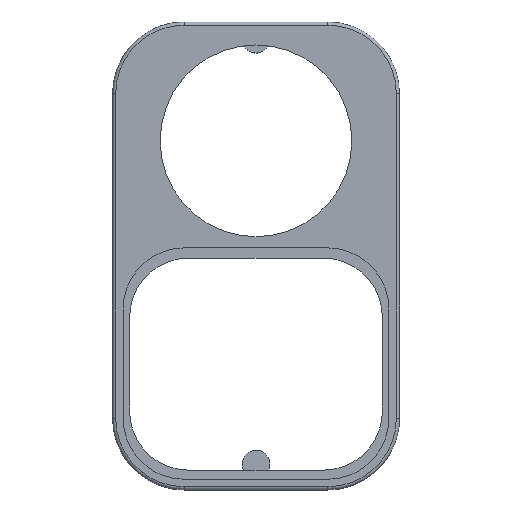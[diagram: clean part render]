
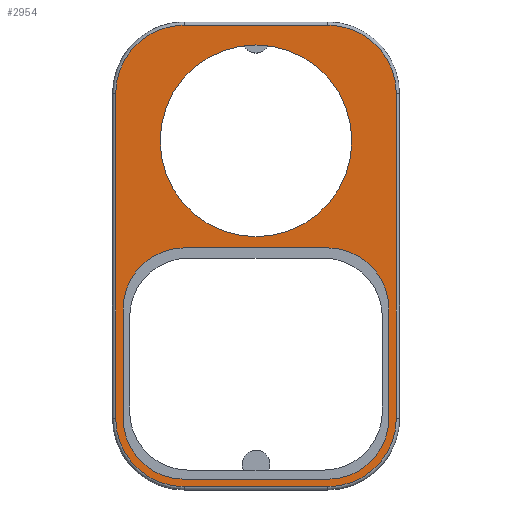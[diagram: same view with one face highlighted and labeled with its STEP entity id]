
A CAD part, top view. The second image highlights one B-rep face of the part: STEP entity #2954.
In plain terms, the highlighted planar face has unit normal (0, 0, 1).
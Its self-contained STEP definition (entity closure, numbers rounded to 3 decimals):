
#2630 = VERTEX_POINT('',#2631);
#2631 = CARTESIAN_POINT('',(1.58,13.53,12.3));
#2640 = VERTEX_POINT('',#2641);
#2641 = CARTESIAN_POINT('',(13.53,1.58,12.3));
#2648 = EDGE_CURVE('',#2630,#2640,#2649,.T.);
#2649 = CIRCLE('',#2650,11.95);
#2650 = AXIS2_PLACEMENT_3D('',#2651,#2652,#2653);
#2651 = CARTESIAN_POINT('',(13.53,13.53,12.3));
#2652 = DIRECTION('',(0.,0.,1.));
#2653 = DIRECTION('',(-1.,0.,0.));
#2664 = VERTEX_POINT('',#2665);
#2665 = CARTESIAN_POINT('',(1.58,70.03,12.3));
#2672 = EDGE_CURVE('',#2664,#2630,#2673,.T.);
#2673 = LINE('',#2674,#2675);
#2674 = CARTESIAN_POINT('',(1.58,70.03,12.3));
#2675 = VECTOR('',#2676,1.);
#2676 = DIRECTION('',(-0.,-1.,-0.));
#2689 = VERTEX_POINT('',#2690);
#2690 = CARTESIAN_POINT('',(13.53,81.98,12.3));
#2699 = EDGE_CURVE('',#2689,#2664,#2700,.T.);
#2700 = CIRCLE('',#2701,11.95);
#2701 = AXIS2_PLACEMENT_3D('',#2702,#2703,#2704);
#2702 = CARTESIAN_POINT('',(13.53,70.03,12.3));
#2703 = DIRECTION('',(0.,-0.,1.));
#2704 = DIRECTION('',(0.,1.,0.));
#2715 = VERTEX_POINT('',#2716);
#2716 = CARTESIAN_POINT('',(38.53,81.98,12.3));
#2723 = EDGE_CURVE('',#2715,#2689,#2724,.T.);
#2724 = LINE('',#2725,#2726);
#2725 = CARTESIAN_POINT('',(38.53,81.98,12.3));
#2726 = VECTOR('',#2727,1.);
#2727 = DIRECTION('',(-1.,-0.,-0.));
#2740 = VERTEX_POINT('',#2741);
#2741 = CARTESIAN_POINT('',(50.48,70.03,12.3));
#2750 = EDGE_CURVE('',#2740,#2715,#2751,.T.);
#2751 = CIRCLE('',#2752,11.95);
#2752 = AXIS2_PLACEMENT_3D('',#2753,#2754,#2755);
#2753 = CARTESIAN_POINT('',(38.53,70.03,12.3));
#2754 = DIRECTION('',(0.,0.,1.));
#2755 = DIRECTION('',(1.,0.,0.));
#2766 = VERTEX_POINT('',#2767);
#2767 = CARTESIAN_POINT('',(50.48,13.53,12.3));
#2774 = EDGE_CURVE('',#2766,#2740,#2775,.T.);
#2775 = LINE('',#2776,#2777);
#2776 = CARTESIAN_POINT('',(50.48,13.53,12.3));
#2777 = VECTOR('',#2778,1.);
#2778 = DIRECTION('',(0.,1.,0.));
#2791 = VERTEX_POINT('',#2792);
#2792 = CARTESIAN_POINT('',(38.53,1.58,12.3));
#2801 = EDGE_CURVE('',#2791,#2766,#2802,.T.);
#2802 = CIRCLE('',#2803,11.95);
#2803 = AXIS2_PLACEMENT_3D('',#2804,#2805,#2806);
#2804 = CARTESIAN_POINT('',(38.53,13.53,12.3));
#2805 = DIRECTION('',(-0.,0.,1.));
#2806 = DIRECTION('',(0.,-1.,0.));
#2817 = EDGE_CURVE('',#2640,#2791,#2818,.T.);
#2818 = LINE('',#2819,#2820);
#2819 = CARTESIAN_POINT('',(13.53,1.58,12.3));
#2820 = VECTOR('',#2821,1.);
#2821 = DIRECTION('',(1.,0.,0.));
#2885 = VERTEX_POINT('',#2886);
#2886 = CARTESIAN_POINT('',(42.73,61.83,12.3));
#2892 = EDGE_CURVE('',#2885,#2885,#2893,.T.);
#2893 = CIRCLE('',#2894,16.7);
#2894 = AXIS2_PLACEMENT_3D('',#2895,#2896,#2897);
#2895 = CARTESIAN_POINT('',(26.03,61.83,12.3));
#2896 = DIRECTION('',(0.,0.,-1.));
#2897 = DIRECTION('',(1.,0.,0.));
#2954 = ADVANCED_FACE('',(#2955,#2965,#3035),#3038,.T.);
#2955 = FACE_BOUND('',#2956,.T.);
#2956 = EDGE_LOOP('',(#2957,#2958,#2959,#2960,#2961,#2962,#2963,#2964));
#2957 = ORIENTED_EDGE('',*,*,#2648,.T.);
#2958 = ORIENTED_EDGE('',*,*,#2817,.T.);
#2959 = ORIENTED_EDGE('',*,*,#2801,.T.);
#2960 = ORIENTED_EDGE('',*,*,#2774,.T.);
#2961 = ORIENTED_EDGE('',*,*,#2750,.T.);
#2962 = ORIENTED_EDGE('',*,*,#2723,.T.);
#2963 = ORIENTED_EDGE('',*,*,#2699,.T.);
#2964 = ORIENTED_EDGE('',*,*,#2672,.T.);
#2965 = FACE_BOUND('',#2966,.T.);
#2966 = EDGE_LOOP('',(#2967,#2977,#2986,#2994,#3003,#3011,#3020,#3028));
#2967 = ORIENTED_EDGE('',*,*,#2968,.T.);
#2968 = EDGE_CURVE('',#2969,#2971,#2973,.T.);
#2969 = VERTEX_POINT('',#2970);
#2970 = CARTESIAN_POINT('',(38.53,2.88,12.3));
#2971 = VERTEX_POINT('',#2972);
#2972 = CARTESIAN_POINT('',(13.53,2.88,12.3));
#2973 = LINE('',#2974,#2975);
#2974 = CARTESIAN_POINT('',(19.78,2.88,12.3));
#2975 = VECTOR('',#2976,1.);
#2976 = DIRECTION('',(-1.,0.,0.));
#2977 = ORIENTED_EDGE('',*,*,#2978,.T.);
#2978 = EDGE_CURVE('',#2971,#2979,#2981,.T.);
#2979 = VERTEX_POINT('',#2980);
#2980 = CARTESIAN_POINT('',(2.88,13.53,12.3));
#2981 = CIRCLE('',#2982,10.65);
#2982 = AXIS2_PLACEMENT_3D('',#2983,#2984,#2985);
#2983 = CARTESIAN_POINT('',(13.53,13.53,12.3));
#2984 = DIRECTION('',(0.,0.,-1.));
#2985 = DIRECTION('',(1.,0.,0.));
#2986 = ORIENTED_EDGE('',*,*,#2987,.T.);
#2987 = EDGE_CURVE('',#2979,#2988,#2990,.T.);
#2988 = VERTEX_POINT('',#2989);
#2989 = CARTESIAN_POINT('',(2.88,32.53,12.3));
#2990 = LINE('',#2991,#2992);
#2991 = CARTESIAN_POINT('',(2.88,27.655,12.3));
#2992 = VECTOR('',#2993,1.);
#2993 = DIRECTION('',(0.,1.,0.));
#2994 = ORIENTED_EDGE('',*,*,#2995,.T.);
#2995 = EDGE_CURVE('',#2988,#2996,#2998,.T.);
#2996 = VERTEX_POINT('',#2997);
#2997 = CARTESIAN_POINT('',(13.53,43.18,12.3));
#2998 = CIRCLE('',#2999,10.65);
#2999 = AXIS2_PLACEMENT_3D('',#3000,#3001,#3002);
#3000 = CARTESIAN_POINT('',(13.53,32.53,12.3));
#3001 = DIRECTION('',(0.,0.,-1.));
#3002 = DIRECTION('',(1.,0.,0.));
#3003 = ORIENTED_EDGE('',*,*,#3004,.F.);
#3004 = EDGE_CURVE('',#3005,#2996,#3007,.T.);
#3005 = VERTEX_POINT('',#3006);
#3006 = CARTESIAN_POINT('',(38.53,43.18,12.3));
#3007 = LINE('',#3008,#3009);
#3008 = CARTESIAN_POINT('',(19.78,43.18,12.3));
#3009 = VECTOR('',#3010,1.);
#3010 = DIRECTION('',(-1.,0.,0.));
#3011 = ORIENTED_EDGE('',*,*,#3012,.T.);
#3012 = EDGE_CURVE('',#3005,#3013,#3015,.T.);
#3013 = VERTEX_POINT('',#3014);
#3014 = CARTESIAN_POINT('',(49.18,32.53,12.3));
#3015 = CIRCLE('',#3016,10.65);
#3016 = AXIS2_PLACEMENT_3D('',#3017,#3018,#3019);
#3017 = CARTESIAN_POINT('',(38.53,32.53,12.3));
#3018 = DIRECTION('',(0.,0.,-1.));
#3019 = DIRECTION('',(1.,0.,0.));
#3020 = ORIENTED_EDGE('',*,*,#3021,.F.);
#3021 = EDGE_CURVE('',#3022,#3013,#3024,.T.);
#3022 = VERTEX_POINT('',#3023);
#3023 = CARTESIAN_POINT('',(49.18,13.53,12.3));
#3024 = LINE('',#3025,#3026);
#3025 = CARTESIAN_POINT('',(49.18,27.655,12.3));
#3026 = VECTOR('',#3027,1.);
#3027 = DIRECTION('',(0.,1.,0.));
#3028 = ORIENTED_EDGE('',*,*,#3029,.T.);
#3029 = EDGE_CURVE('',#3022,#2969,#3030,.T.);
#3030 = CIRCLE('',#3031,10.65);
#3031 = AXIS2_PLACEMENT_3D('',#3032,#3033,#3034);
#3032 = CARTESIAN_POINT('',(38.53,13.53,12.3));
#3033 = DIRECTION('',(0.,0.,-1.));
#3034 = DIRECTION('',(1.,0.,0.));
#3035 = FACE_BOUND('',#3036,.T.);
#3036 = EDGE_LOOP('',(#3037));
#3037 = ORIENTED_EDGE('',*,*,#2892,.T.);
#3038 = PLANE('',#3039);
#3039 = AXIS2_PLACEMENT_3D('',#3040,#3041,#3042);
#3040 = CARTESIAN_POINT('',(26.03,41.78,12.3));
#3041 = DIRECTION('',(0.,0.,1.));
#3042 = DIRECTION('',(1.,0.,0.));
